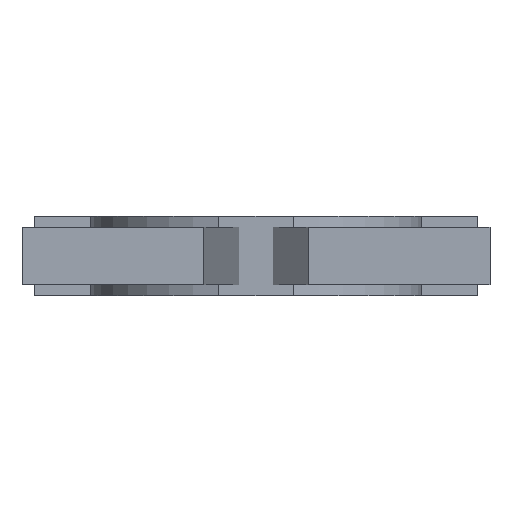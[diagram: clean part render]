
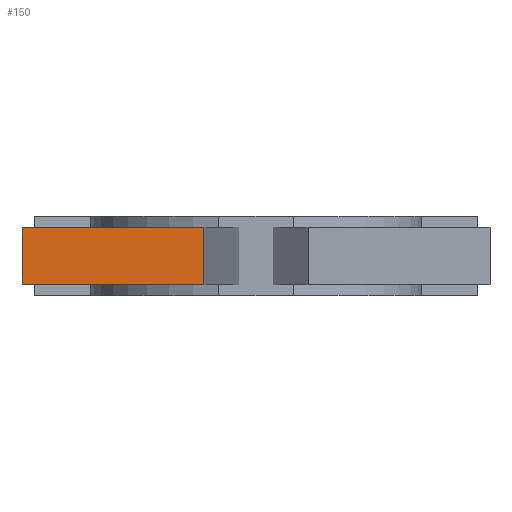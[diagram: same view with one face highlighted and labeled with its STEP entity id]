
A CAD part, front view. The second image highlights one B-rep face of the part: STEP entity #150.
In plain terms, the highlighted planar face has unit normal (0, -1, 0).
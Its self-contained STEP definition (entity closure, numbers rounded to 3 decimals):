
#150 = ADVANCED_FACE( '', ( #352 ), #353, .F. );
#352 = FACE_OUTER_BOUND( '', #645, .T. );
#353 = PLANE( '', #646 );
#645 = EDGE_LOOP( '', ( #1071, #1072, #1073, #1074 ) );
#646 = AXIS2_PLACEMENT_3D( '', #1075, #1076, #1077 );
#1071 = ORIENTED_EDGE( '', *, *, #1678, .T. );
#1072 = ORIENTED_EDGE( '', *, *, #1679, .F. );
#1073 = ORIENTED_EDGE( '', *, *, #1618, .F. );
#1074 = ORIENTED_EDGE( '', *, *, #1582, .T. );
#1075 = CARTESIAN_POINT( '', ( -41., -100.23, 5. ) );
#1076 = DIRECTION( '', ( 0., 1., 0. ) );
#1077 = DIRECTION( '', ( 0., 0., 1. ) );
#1582 = EDGE_CURVE( '', #1883, #1881, #1884, .T. );
#1618 = EDGE_CURVE( '', #1883, #1944, #1945, .T. );
#1678 = EDGE_CURVE( '', #1881, #2044, #2045, .T. );
#1679 = EDGE_CURVE( '', #1944, #2044, #2046, .T. );
#1881 = VERTEX_POINT( '', #2310 );
#1883 = VERTEX_POINT( '', #2313 );
#1884 = LINE( '', #2314, #2315 );
#1944 = VERTEX_POINT( '', #2417 );
#1945 = LINE( '', #2418, #2419 );
#2044 = VERTEX_POINT( '', #2603 );
#2045 = LINE( '', #2604, #2605 );
#2046 = LINE( '', #2606, #2607 );
#2310 = CARTESIAN_POINT( '', ( -41., -100.23, -5. ) );
#2313 = CARTESIAN_POINT( '', ( -41., -100.23, 5. ) );
#2314 = CARTESIAN_POINT( '', ( -41., -100.23, 5. ) );
#2315 = VECTOR( '', #2929, 1000. );
#2417 = CARTESIAN_POINT( '', ( -9.118, -100.23, 5. ) );
#2418 = CARTESIAN_POINT( '', ( -41., -100.23, 5. ) );
#2419 = VECTOR( '', #2955, 1000. );
#2603 = CARTESIAN_POINT( '', ( -9.118, -100.23, -5. ) );
#2604 = CARTESIAN_POINT( '', ( -41., -100.23, -5. ) );
#2605 = VECTOR( '', #3007, 1000. );
#2606 = CARTESIAN_POINT( '', ( -9.118, -100.23, 5. ) );
#2607 = VECTOR( '', #3008, 1000. );
#2929 = DIRECTION( '', ( 0., 0., -1. ) );
#2955 = DIRECTION( '', ( 1., 0., 0. ) );
#3007 = DIRECTION( '', ( 1., 0., 0. ) );
#3008 = DIRECTION( '', ( 0., 0., -1. ) );
